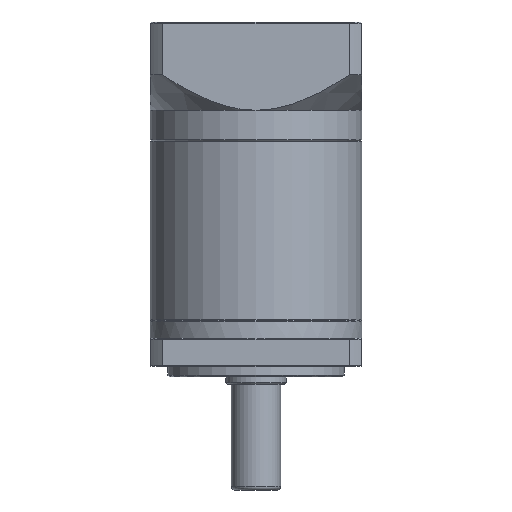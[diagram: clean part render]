
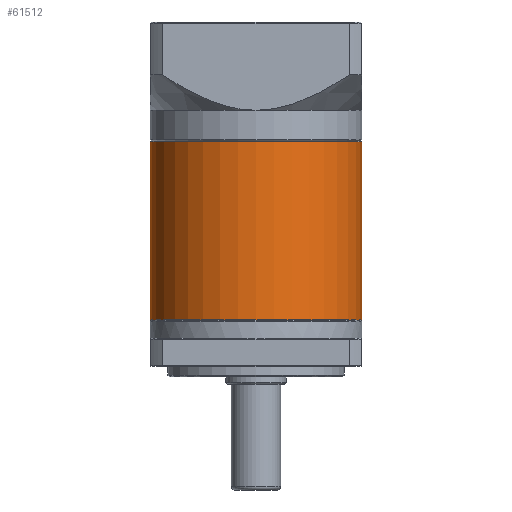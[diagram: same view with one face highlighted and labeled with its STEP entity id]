
A CAD part, front view. The second image highlights one B-rep face of the part: STEP entity #61512.
In plain terms, the highlighted cylindrical face has radius 30 mm (diameter 60 mm), a partial arc.
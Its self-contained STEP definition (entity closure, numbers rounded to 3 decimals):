
#1241 = DIRECTION ( 'NONE',  ( 0., 0., -1. ) ) ;
#1527 = DIRECTION ( 'NONE',  ( 0., 0., 1. ) ) ;
#6312 = CARTESIAN_POINT ( 'NONE',  ( -57.925, 22.909, -17.287 ) ) ;
#10280 = AXIS2_PLACEMENT_3D ( 'NONE', #6312, #14333, #78131 ) ;
#14117 = EDGE_CURVE ( 'NONE', #94967, #15917, #39411, .T. ) ;
#14333 = DIRECTION ( 'NONE',  ( 0., 0., -1. ) ) ;
#15917 = VERTEX_POINT ( 'NONE', #28158 ) ;
#24604 = VECTOR ( 'NONE', #1241, 1000. ) ;
#25833 = CARTESIAN_POINT ( 'NONE',  ( -87.925, 22.909, -67.587 ) ) ;
#28158 = CARTESIAN_POINT ( 'NONE',  ( -27.925, 22.909, -67.587 ) ) ;
#28251 = VERTEX_POINT ( 'NONE', #30705 ) ;
#28839 = CARTESIAN_POINT ( 'NONE',  ( -87.925, 22.909, -17.287 ) ) ;
#30681 = ORIENTED_EDGE ( 'NONE', *, *, #84093, .T. ) ;
#30705 = CARTESIAN_POINT ( 'NONE',  ( -27.925, 22.909, -17.287 ) ) ;
#31217 = EDGE_CURVE ( 'NONE', #28251, #15917, #77133, .T. ) ;
#32658 = CARTESIAN_POINT ( 'NONE',  ( -87.925, 22.909, -17.037 ) ) ;
#34682 = DIRECTION ( 'NONE',  ( 0., 0., -1. ) ) ;
#35321 = CIRCLE ( 'NONE', #10280, 30. ) ;
#35866 = ORIENTED_EDGE ( 'NONE', *, *, #14117, .T. ) ;
#38533 = ORIENTED_EDGE ( 'NONE', *, *, #53745, .T. ) ;
#39411 = CIRCLE ( 'NONE', #68809, 30. ) ;
#39629 = VECTOR ( 'NONE', #34682, 1000. ) ;
#40881 = CARTESIAN_POINT ( 'NONE',  ( -57.925, 22.909, -67.587 ) ) ;
#49942 = DIRECTION ( 'NONE',  ( 1., 0., 0. ) ) ;
#53745 = EDGE_CURVE ( 'NONE', #28251, #56951, #35321, .T. ) ;
#55630 = LINE ( 'NONE', #32658, #24604 ) ;
#56951 = VERTEX_POINT ( 'NONE', #28839 ) ;
#59125 = DIRECTION ( 'NONE',  ( -1., 0., 0. ) ) ;
#61512 = ADVANCED_FACE ( 'NONE', ( #102460 ), #81209, .T. ) ;
#67888 = AXIS2_PLACEMENT_3D ( 'NONE', #89590, #73828, #59125 ) ;
#68809 = AXIS2_PLACEMENT_3D ( 'NONE', #40881, #1527, #49942 ) ;
#73828 = DIRECTION ( 'NONE',  ( 0., 0., -1. ) ) ;
#77133 = LINE ( 'NONE', #89768, #39629 ) ;
#78131 = DIRECTION ( 'NONE',  ( 1., 0., 0. ) ) ;
#81209 = CYLINDRICAL_SURFACE ( 'NONE', #67888, 30. ) ;
#84093 = EDGE_CURVE ( 'NONE', #56951, #94967, #55630, .T. ) ;
#87275 = ORIENTED_EDGE ( 'NONE', *, *, #31217, .F. ) ;
#89590 = CARTESIAN_POINT ( 'NONE',  ( -57.925, 22.909, -17.037 ) ) ;
#89768 = CARTESIAN_POINT ( 'NONE',  ( -27.925, 22.909, -17.037 ) ) ;
#94967 = VERTEX_POINT ( 'NONE', #25833 ) ;
#97890 = EDGE_LOOP ( 'NONE', ( #87275, #38533, #30681, #35866 ) ) ;
#102460 = FACE_OUTER_BOUND ( 'NONE', #97890, .T. ) ;
